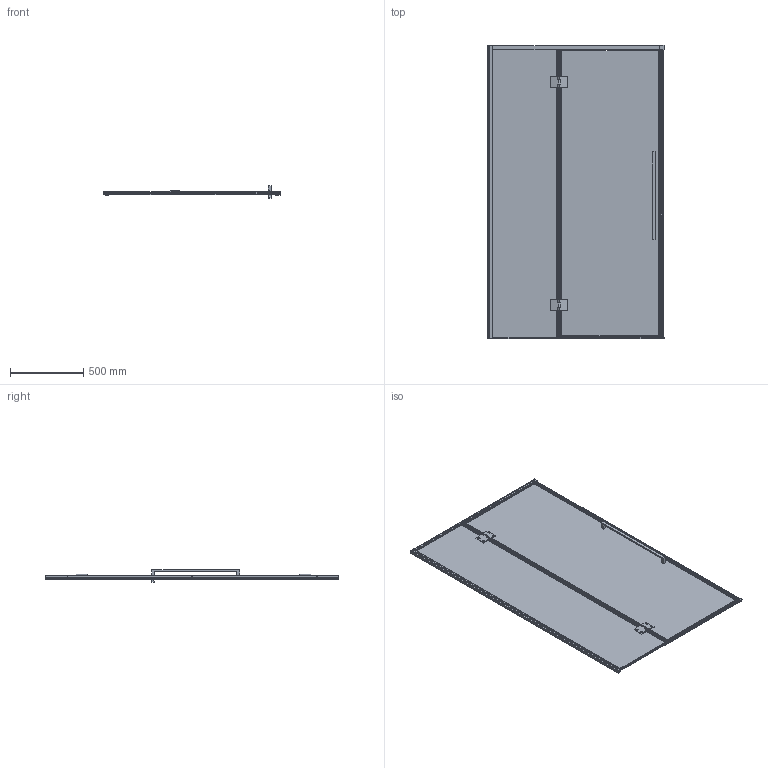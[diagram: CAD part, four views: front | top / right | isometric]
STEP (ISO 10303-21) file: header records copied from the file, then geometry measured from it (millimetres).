
FILE_DESCRIPTION((''),'2;1');
FILE_NAME('ASM0002_ASM','2024-02-23T14:03:46',('Administrator'),(''),'CREO PARAMETRIC BY PTC INC, 2017110','CREO PARAMETRIC BY PTC INC, 2017110','');
FILE_SCHEMA(('CONFIG_CONTROL_DESIGN'));
Length unit declared in the file: millimetre
Products named in the file (42): _N00_1-1684_1; _N00_1-5028_1; _N0004_1_1; YTZG_ST4X10_1_1; _N00_ASM_1_1_ASM; _N00_2_1; 000_3_1; 1-100_4_1; 000_ASM_7_1_ASM; DBT_ST4X30_1_1; 0004_1_1; _N000_2_1; _N000_1_1; 00_4_1; 0007_1_1; M500_1_1; 00_ASM_3_1_ASM; PRT0001_4_1; PRT0002_4_1; PRT0004_3_1; PRT0005_2_1; PRT0003_4_1; PRT0006_2_1; LJCT_M6X12_8_1; 000_1_1; 0008_ASM_4_1_ASM; 001_9_1; 0010_ASM_7_1_ASM; BAHSOU1020580_1_1; BASHOUGAI1_1_1; 222233_2_1; _N000_5_1; 0013_1_1; 0014_3_1; 00_1-49562_1; 00_1-50619_1; _100_1_1; 123456_1_1; 100_1_1; 888888888888888888_1_1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
Assembly tree (57 placements, depth 4):
  ASM0002_ASM
    00-S617011_ASM_3_1_ASM
      _N00_ASM_1_1_ASM
        _N00_1-1684_1
        _N00_1-5028_1
        _N0004_1_1
        YTZG_ST4X10_1_1  x3
      _N00_2_1
      000_ASM_7_1_ASM
        000_3_1
        1-100_4_1
      DBT_ST4X30_1_1  x2
      0004_1_1
      _N000_2_1
      _N000_1_1
      00_ASM_3_1_ASM
        00_4_1
        0007_1_1
        M500_1_1  x2
      0008_ASM_4_1_ASM  x2
        PRT0001_4_1
        PRT0002_4_1
        PRT0004_3_1
        PRT0005_2_1
        PRT0003_4_1
        PRT0006_2_1
        LJCT_M6X12_8_1
        000_1_1
      0010_ASM_7_1_ASM
        001_9_1
      BAHSOU1020580_1_1
      BASHOUGAI1_1_1
      222233_2_1
      _N000_5_1
      0013_1_1
      0014_3_1
      00_1-49562_1
      00_1-50619_1
      _100_1_1
      123456_1_1
      100_1_1
      888888888888888888_1_1
Bounding box: 1200 x 2003 x 86 mm (x, y, z)
Volume: 14838755.7 mm3; surface area: 6743003.1 mm2
Topology: 69 solids, 70 shells, 1958 faces, 5353 edges, 3544 vertices
Faces by surface type: cylinder 805, plane 800, bspline 181, cone 67, torus 60, extrusion 18, revolution 16, sphere 11
Entity records: 52159 total; most frequent: CARTESIAN_POINT 21338, ORIENTED_EDGE 6406, DIRECTION 6179, EDGE_CURVE 3203, VERTEX_POINT 2130, AXIS2_PLACEMENT_3D 2123, VECTOR 1931, LINE 1926
